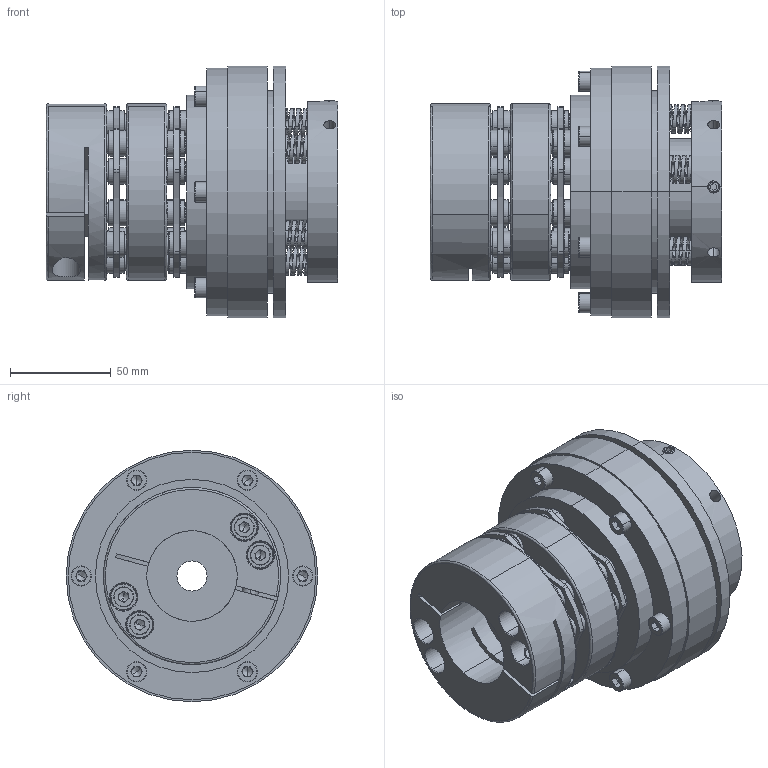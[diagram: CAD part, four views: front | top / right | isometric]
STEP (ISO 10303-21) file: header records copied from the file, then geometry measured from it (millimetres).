
FILE_DESCRIPTION (( 'STEP AP214' ), '1' );
FILE_NAME ('STL150-L-M.STEP', '2020-03-01T04:05:28', ( '' ), ( '' ), 'SwSTEP 2.0', 'SolidWorks 2015', '' );
FILE_SCHEMA (( 'AUTOMOTIVE_DESIGN' ));
Length unit declared in the file: millimetre
Products named in the file (1): STL150-L-M
Bounding box: 144.9 x 125 x 125 mm (x, y, z)
Volume: 830200.9 mm3; surface area: 166840.4 mm2
Topology: 1 solids, 81 shells, 1731 faces, 4342 edges, 2757 vertices
Faces by surface type: cylinder 637, plane 482, bspline 400, cone 176, torus 36
Entity records: 102479 total; most frequent: CARTESIAN_POINT 43150, ORIENTED_EDGE 8568, DIRECTION 8464, EDGE_CURVE 4284, AXIS2_PLACEMENT_3D 3521, VERTEX_POINT 2757, CIRCLE 2189, EDGE_LOOP 1987
